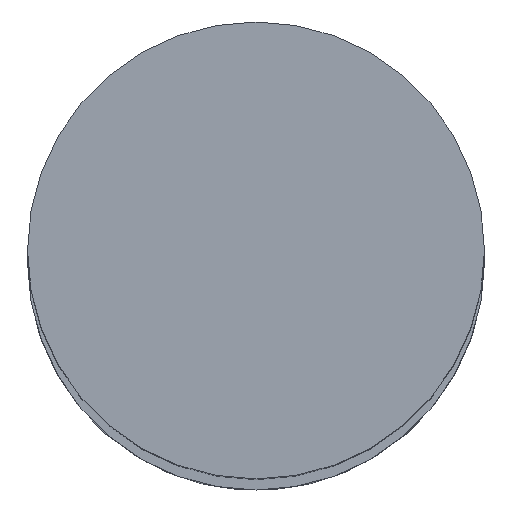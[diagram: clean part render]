
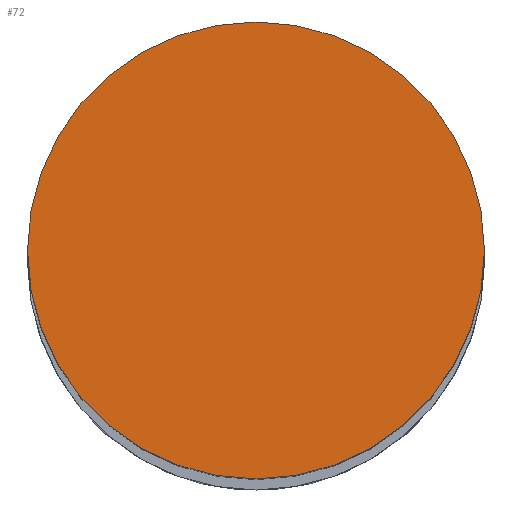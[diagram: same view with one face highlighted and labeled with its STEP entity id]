
A CAD part, top view. The second image highlights one B-rep face of the part: STEP entity #72.
In plain terms, the highlighted planar face has unit normal (0, 0, 1).
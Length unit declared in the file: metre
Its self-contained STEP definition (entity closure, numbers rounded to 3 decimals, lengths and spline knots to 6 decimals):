
#72=ADVANCED_FACE('0:129',(#155),#156,.T.);
#155=FACE_OUTER_BOUND('',#257,.T.);
#156=PLANE('',#258);
#257=EDGE_LOOP('',(#373,#374));
#258=AXIS2_PLACEMENT_3D('',#375,#376,#377);
#373=ORIENTED_EDGE('',*,*,#577,.F.);
#374=ORIENTED_EDGE('',*,*,#578,.F.);
#375=CARTESIAN_POINT('',(0.,0.,0.149));
#376=DIRECTION('',(0.0,0.0,1.0));
#377=DIRECTION('',(1.0,0.0,0.0));
#577=EDGE_CURVE('',#687,#688,#689,.F.);
#578=EDGE_CURVE('',#688,#687,#690,.F.);
#687=VERTEX_POINT('',#831);
#688=VERTEX_POINT('',#832);
#689=CIRCLE('',#833,0.008);
#690=CIRCLE('',#834,0.008);
#831=CARTESIAN_POINT('',(-0.00811,0.000133,0.149));
#832=CARTESIAN_POINT('',(0.00789,0.000133,0.149));
#833=AXIS2_PLACEMENT_3D('',#979,#980,#981);
#834=AXIS2_PLACEMENT_3D('',#982,#983,#984);
#979=CARTESIAN_POINT('',(-0.00011,0.000133,0.149));
#980=DIRECTION('',(0.0,0.0,1.0));
#981=DIRECTION('',(1.0,0.0,0.0));
#982=CARTESIAN_POINT('',(-0.00011,0.000133,0.149));
#983=DIRECTION('',(0.0,0.0,1.0));
#984=DIRECTION('',(1.0,0.0,0.0));
